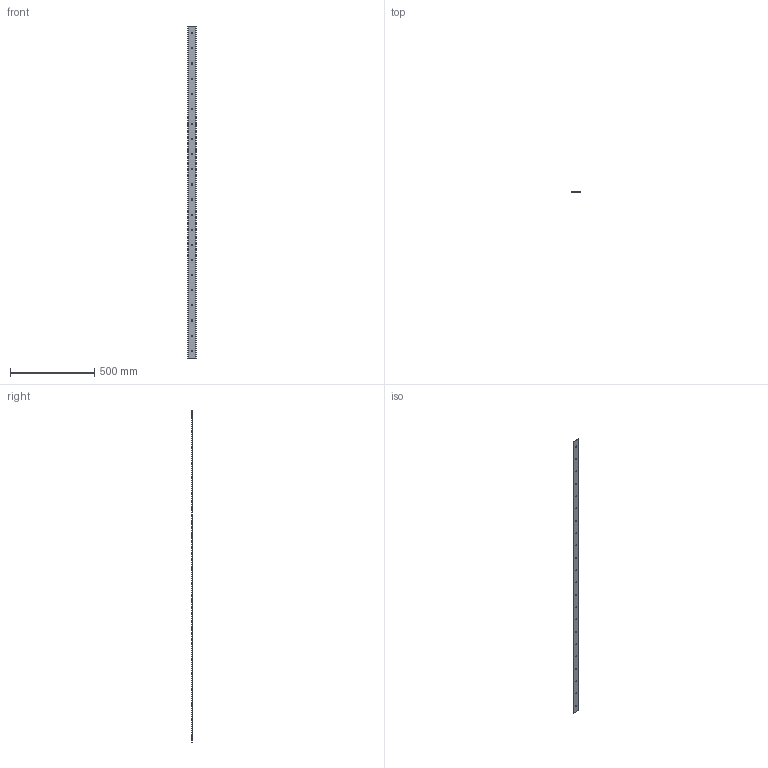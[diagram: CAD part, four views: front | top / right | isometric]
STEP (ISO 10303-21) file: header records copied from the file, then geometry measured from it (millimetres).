
FILE_DESCRIPTION(('STEP AP203'),'1');
FILE_NAME('slide_s50l1976p2.stp','2022-07-01T06:19:37',('TraceParts'),('TraceParts S.A.'),'Spatial InterOp 3D',' ',' ');
FILE_SCHEMA(('CONFIG_CONTROL_DESIGN'));
Length unit declared in the file: millimetre
Products named in the file (1): 1
Bounding box: 49.69 x 4.93 x 1976 mm (x, y, z)
Volume: 455535 mm3; surface area: 205328.4 mm2
Topology: 1 solids, 1 shells, 56 faces, 162 edges, 108 vertices
Faces by surface type: cylinder 48, plane 8
Entity records: 2034 total; most frequent: DIRECTION 372, CARTESIAN_POINT 327, ORIENTED_EDGE 324, EDGE_CURVE 162, AXIS2_PLACEMENT_3D 153, VERTEX_POINT 108, EDGE_LOOP 100, CIRCLE 96
